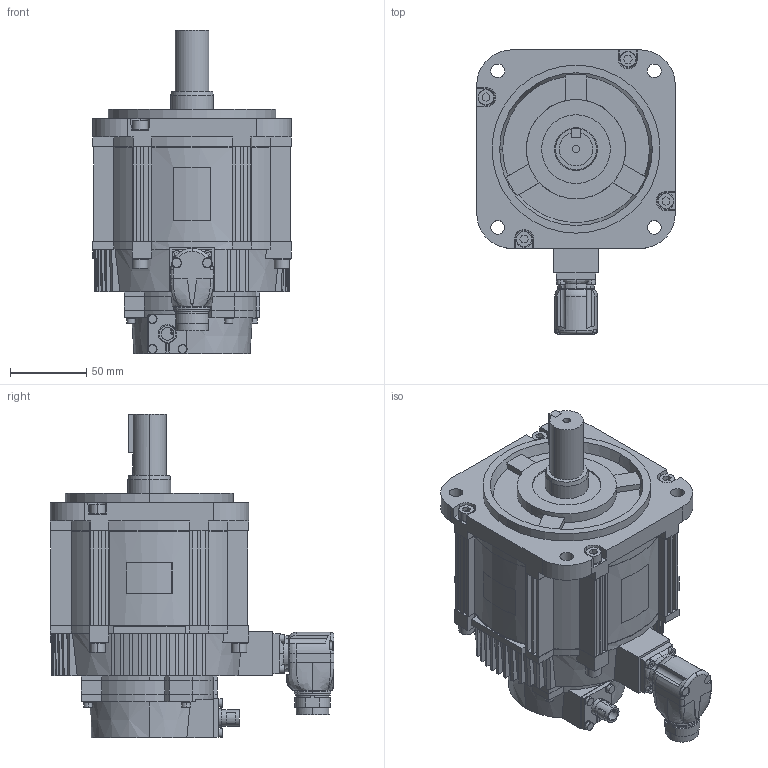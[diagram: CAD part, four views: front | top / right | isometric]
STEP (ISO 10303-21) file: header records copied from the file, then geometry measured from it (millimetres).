
FILE_DESCRIPTION (( 'STEP AP214' ), '1' );
FILE_NAME ('sgm7g_13d_rkf.STEP', '2016-08-23T14:14:36', ( '安川電機' ), ( 'YASKAWA' ), 'SwSTEP 2.0', 'SolidWorks 2006303', '' );
FILE_SCHEMA (( 'AUTOMOTIVE_DESIGN' ));
Length unit declared in the file: millimetre
Products named in the file (4): sgm7g_13d_rkf_base_蹬怮椔; sgm7g_13d_rkf_connector; sgm7g_13d_rkf_key_蹬怮椔; sgm7g_13d_rkf
Assembly tree (3 placements, depth 2):
  sgm7g_13d_rkf
    sgm7g_13d_rkf_connector
    sgm7g_13d_rkf_key_蹬怮椔
    sgm7g_13d_rkf_base_蹬怮椔
Bounding box: 130 x 185.9 x 212.1 mm (x, y, z)
Volume: 1869688 mm3; surface area: 148139.6 mm2
Topology: 3 solids, 3 shells, 993 faces, 2616 edges, 1700 vertices
Faces by surface type: plane 642, cylinder 234, cone 88, bspline 20, torus 9
Entity records: 43290 total; most frequent: CARTESIAN_POINT 7515, ORIENTED_EDGE 5228, DIRECTION 5115, EDGE_CURVE 2614, AXIS2_PLACEMENT_3D 1753, VERTEX_POINT 1700, VECTOR 1609, LINE 1609
